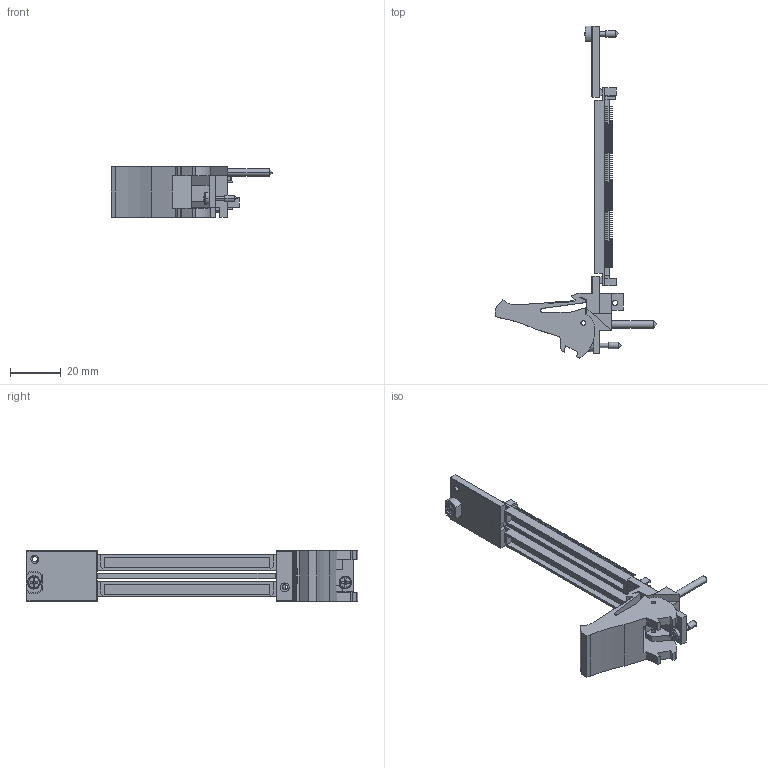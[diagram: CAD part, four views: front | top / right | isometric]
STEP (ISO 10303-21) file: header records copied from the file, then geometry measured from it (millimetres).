
FILE_DESCRIPTION((''),'2;1');
FILE_NAME('CU_PXIE-2532','2009-11-06T',('jjorden'),(''),'PRO/ENGINEER BY PARAMETRIC TECHNOLOGY CORPORATION, 2006080','PRO/ENGINEER BY PARAMETRIC TECHNOLOGY CORPORATION, 2006080','');
FILE_SCHEMA(('CONFIG_CONTROL_DESIGN'));
Length unit declared in the file: inch
Products named in the file (1): CU_PXIE-2532
Bounding box: 63.53 x 130.51 x 20.02 mm (x, y, z)
Volume: 13819.5 mm3; surface area: 16047 mm2
Topology: 3 solids, 3 shells, 2656 faces, 6873 edges, 4555 vertices
Faces by surface type: plane 2557, cylinder 77, cone 14, torus 4, sphere 4
Entity records: 79518 total; most frequent: CARTESIAN_POINT 14203, ORIENTED_EDGE 13738, DIRECTION 12372, EDGE_CURVE 6869, VECTOR 6644, LINE 6644, VERTEX_POINT 4555, EDGE_LOOP 3020
